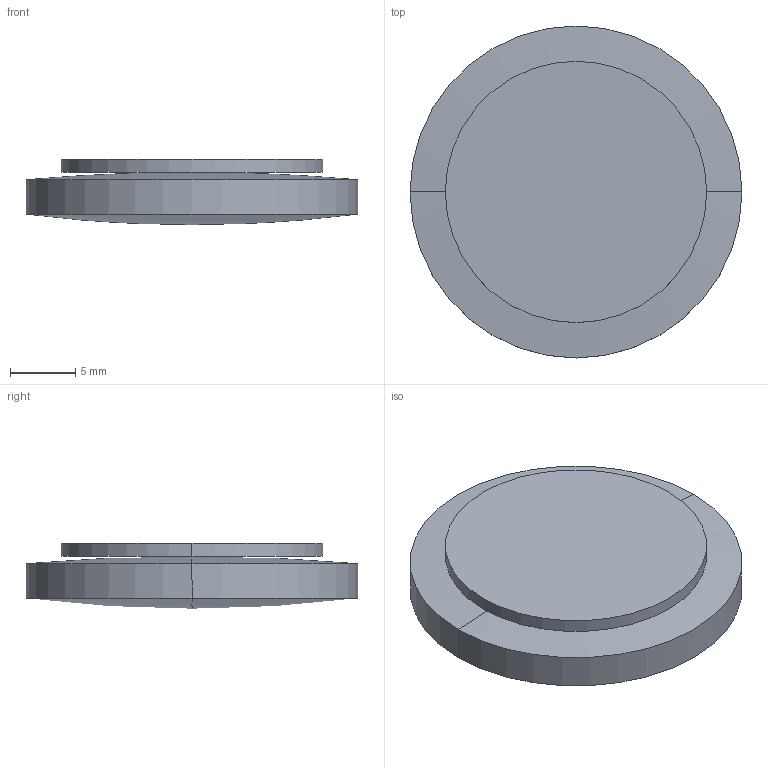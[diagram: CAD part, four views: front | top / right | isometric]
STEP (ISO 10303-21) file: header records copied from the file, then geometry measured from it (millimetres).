
FILE_DESCRIPTION(('STEP AP214'),'1');
FILE_NAME('LLG-25100.STEP','2020-03-09T17:41:34',(' '),(' '),'Spatial InterOp 3D',' ',' ');
FILE_SCHEMA(('AUTOMOTIVE_DESIGN { 1 0 10303 214 1 1 1 1 }'));
Length unit declared in the file: millimetre
Products named in the file (1): 1
Bounding box: 25.4 x 25.4 x 5 mm (x, y, z)
Volume: 1998.1 mm3; surface area: 1918.6 mm2
Topology: 2 solids, 2 shells, 10 faces, 20 edges, 10 vertices
Faces by surface type: sphere 4, cylinder 4, plane 2
Entity records: 255 total; most frequent: DIRECTION 52, CARTESIAN_POINT 38, ORIENTED_EDGE 32, AXIS2_PLACEMENT_3D 24, EDGE_CURVE 16, CIRCLE 12, ADVANCED_FACE 10, FACE_OUTER_BOUND 10
